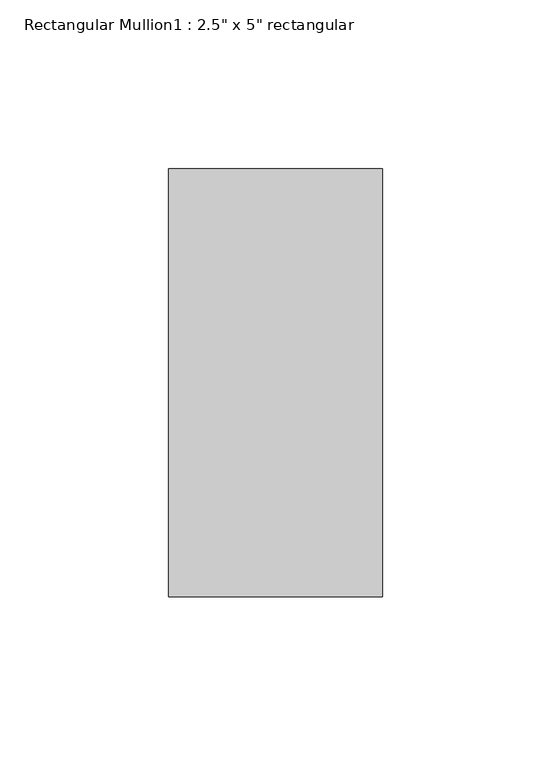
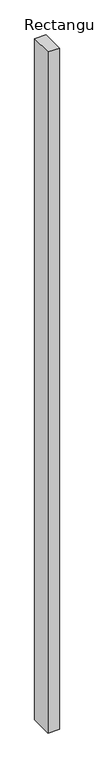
"""IFC4 building model written with IfcOpenShell, lengths in millimetres: member geometry."""

from ifc_helpers import new_model, si_unit, frame, origin, place, context, project, spatial, polyline, outline, extrude, source, transform, mapped, element, save


def member_b283b77b(model_context):
    return source(origin(), model_context, "Body", "SweptSolid", [
        extrude(outline(polyline([(31.75, 63.5), (31.75, -63.5), (-31.75, -63.5), (-31.75, 63.5), (31.75, 63.5)])), frame((0.0, 0.0, -4003.5335741), z_axis=(0.0, 0.0, 1.0), x_axis=(1.0, 0.0, 0.0)), (0.0, 0.0, 1.0), 4003.5335741),
    ])


if __name__ == "__main__":
    model = new_model("IFC4")
    model_context = context("Model", 3, world=origin())
    ifc_project = project(units=[si_unit("LENGTHUNIT", "METRE", prefix="MILLI")], contexts=[model_context])
    site = spatial("IfcSite", under=ifc_project)
    building = spatial("IfcBuilding", under=site)
    placement = place(None, origin())
    member_shape = member_b283b77b(model_context)
    element("IfcMember", 1, ObjectType="Rectangular Mullion1 : 2.5\" x 5\" rectangular", at=placement, inside=building, context=model_context, shape_type="MappedRepresentation", body=[
        mapped(member_shape, transform((0.0, 0.0, 0.0), x_axis=(1.0, 0.0, 0.0), y_axis=(0.0, 1.0, 0.0), z_axis=(0.0, 0.0, 1.0))),
    ])
    save(model, "model.ifc")
